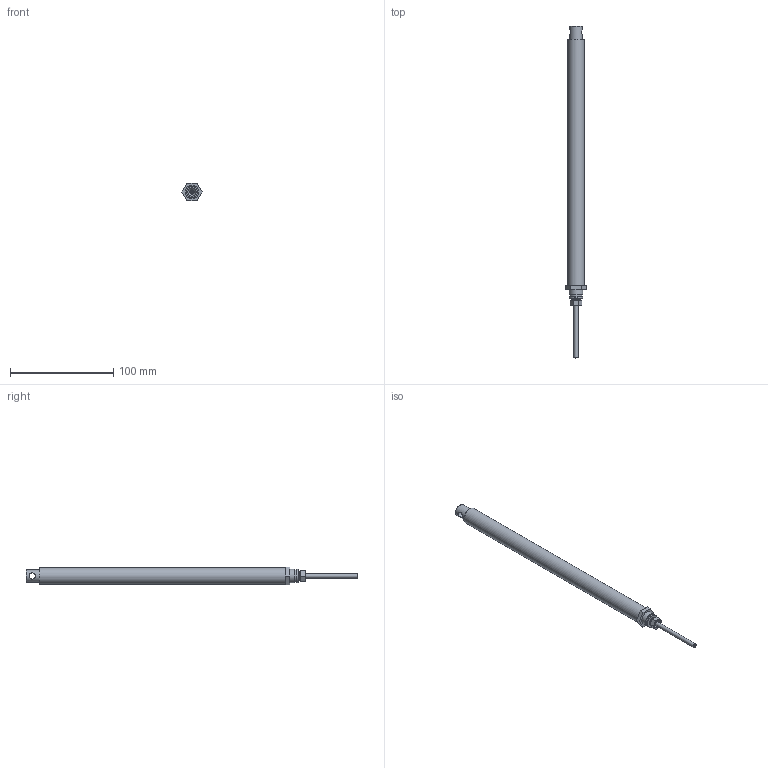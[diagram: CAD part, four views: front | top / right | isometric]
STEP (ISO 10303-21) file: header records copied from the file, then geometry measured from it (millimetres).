
FILE_DESCRIPTION(/* description */ ('Unknown'),/* implementation_level */ '2;1');
FILE_NAME(/* name */ '107.00162 Zylinder CI 1420_eingefahren',/* time_stamp */ '2018-07-06T17:38:06+02:00',/* author */ ('Unknown'),/* organization */ ('Unknown'),/* preprocessor_version */ 'ST-DEVELOPER v16.7',/* originating_system */ 'DEX',/* authorisation */ $);
FILE_SCHEMA (('AUTOMOTIVE_DESIGN {1 0 10303 214 3 1 1}'));
Length unit declared in the file: millimetre
Products named in the file (9): 107.00162; 121.00002; 142.00021; 125.00021; 115.00007_oa_0; 125.00031; 120.00002; 122.00001; 113.00002_70mm
Assembly tree (8 placements, depth 2):
  107.00162
    121.00002
    142.00021
    125.00021
    115.00007_oa_0
    125.00031
    120.00002
    122.00001
    113.00002_70mm
Bounding box: 19.63 x 321 x 17 mm (x, y, z)
Volume: 41567.9 mm3; surface area: 37004.2 mm2
Topology: 7 solids, 7 shells, 89 faces, 178 edges, 114 vertices
Faces by surface type: plane 37, cylinder 27, cone 21, torus 3, sphere 1
Full cylindrical faces by diameter (mm): 2.2 x1, 3.5 x1, 4 x1, 4.1 x1, 4.2 x1, 6 x1, 6.917 x2, 7.763 x2, 8 x3, 8.1 x3, 9 x1, 12 x2, 12.5 x1, 13 x2, 13.9 x2, 14 x2, 16 x1
Entity records: 2650 total; most frequent: CARTESIAN_POINT 397, DIRECTION 376, ORIENTED_EDGE 244, AXIS2_PLACEMENT_3D 170, FACE_BOUND 159, EDGE_LOOP 158, EDGE_CURVE 122, VERTEX_POINT 105
